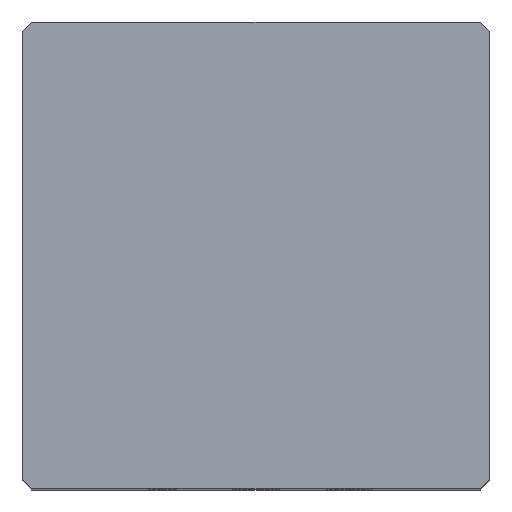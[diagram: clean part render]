
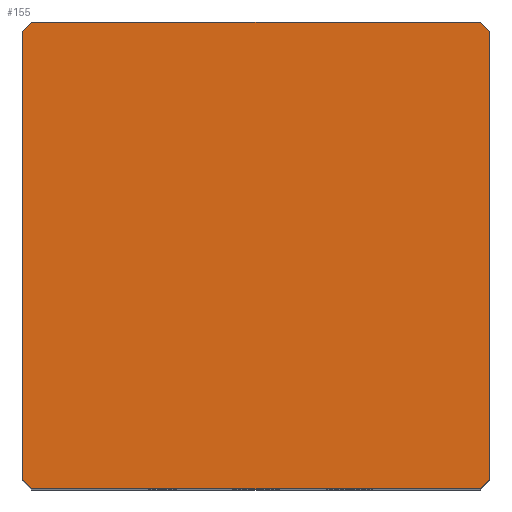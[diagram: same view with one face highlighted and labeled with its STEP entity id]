
A CAD part, top view. The second image highlights one B-rep face of the part: STEP entity #155.
In plain terms, the highlighted planar face has unit normal (0, 0, 1).
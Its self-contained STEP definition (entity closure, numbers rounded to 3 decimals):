
#39 = EDGE_CURVE('',#40,#42,#44,.T.);
#40 = VERTEX_POINT('',#41);
#41 = CARTESIAN_POINT('',(-10.,-9.6,30.75));
#42 = VERTEX_POINT('',#43);
#43 = CARTESIAN_POINT('',(-10.,9.6,30.75));
#44 = SURFACE_CURVE('',#45,(#49,#61),.PCURVE_S1.);
#45 = LINE('',#46,#47);
#46 = CARTESIAN_POINT('',(-10.,-10.,30.75));
#47 = VECTOR('',#48,1.);
#48 = DIRECTION('',(-0.,1.,0.));
#49 = PCURVE('',#50,#55);
#50 = PLANE('',#51);
#51 = AXIS2_PLACEMENT_3D('',#52,#53,#54);
#52 = CARTESIAN_POINT('',(-10.,-10.,0.));
#53 = DIRECTION('',(1.,0.,-0.));
#54 = DIRECTION('',(0.,0.,1.));
#55 = DEFINITIONAL_REPRESENTATION('',(#56),#60);
#56 = LINE('',#57,#58);
#57 = CARTESIAN_POINT('',(30.75,0.));
#58 = VECTOR('',#59,1.);
#59 = DIRECTION('',(0.,-1.));
#60 = ( GEOMETRIC_REPRESENTATION_CONTEXT(2) 
PARAMETRIC_REPRESENTATION_CONTEXT() REPRESENTATION_CONTEXT('2D SPACE',''
  ) );
#61 = PCURVE('',#62,#67);
#62 = PLANE('',#63);
#63 = AXIS2_PLACEMENT_3D('',#64,#65,#66);
#64 = CARTESIAN_POINT('',(-10.,-10.,30.75));
#65 = DIRECTION('',(0.,0.,1.));
#66 = DIRECTION('',(1.,0.,-0.));
#67 = DEFINITIONAL_REPRESENTATION('',(#68),#72);
#68 = LINE('',#69,#70);
#69 = CARTESIAN_POINT('',(0.,0.));
#70 = VECTOR('',#71,1.);
#71 = DIRECTION('',(0.,1.));
#72 = ( GEOMETRIC_REPRESENTATION_CONTEXT(2) 
PARAMETRIC_REPRESENTATION_CONTEXT() REPRESENTATION_CONTEXT('2D SPACE',''
  ) );
#90 = PLANE('',#91);
#91 = AXIS2_PLACEMENT_3D('',#92,#93,#94);
#92 = CARTESIAN_POINT('',(-9.8,-9.8,0.));
#93 = DIRECTION('',(-0.707,-0.707,0.));
#94 = DIRECTION('',(-0.,-0.,-1.));
#144 = PLANE('',#145);
#145 = AXIS2_PLACEMENT_3D('',#146,#147,#148);
#146 = CARTESIAN_POINT('',(-9.8,9.8,0.));
#147 = DIRECTION('',(0.707,-0.707,0.));
#148 = DIRECTION('',(-0.,-0.,-1.));
#155 = ADVANCED_FACE('',(#156),#62,.T.);
#156 = FACE_BOUND('',#157,.T.);
#157 = EDGE_LOOP('',(#158,#159,#182,#210,#238,#266,#294,#322));
#158 = ORIENTED_EDGE('',*,*,#39,.F.);
#159 = ORIENTED_EDGE('',*,*,#160,.T.);
#160 = EDGE_CURVE('',#40,#161,#163,.T.);
#161 = VERTEX_POINT('',#162);
#162 = CARTESIAN_POINT('',(-9.6,-10.,30.75));
#163 = SURFACE_CURVE('',#164,(#168,#175),.PCURVE_S1.);
#164 = LINE('',#165,#166);
#165 = CARTESIAN_POINT('',(-9.8,-9.8,30.75));
#166 = VECTOR('',#167,1.);
#167 = DIRECTION('',(0.707,-0.707,0.));
#168 = PCURVE('',#62,#169);
#169 = DEFINITIONAL_REPRESENTATION('',(#170),#174);
#170 = LINE('',#171,#172);
#171 = CARTESIAN_POINT('',(0.2,0.2));
#172 = VECTOR('',#173,1.);
#173 = DIRECTION('',(0.707,-0.707));
#174 = ( GEOMETRIC_REPRESENTATION_CONTEXT(2) 
PARAMETRIC_REPRESENTATION_CONTEXT() REPRESENTATION_CONTEXT('2D SPACE',''
  ) );
#175 = PCURVE('',#90,#176);
#176 = DEFINITIONAL_REPRESENTATION('',(#177),#181);
#177 = LINE('',#178,#179);
#178 = CARTESIAN_POINT('',(-30.75,0.));
#179 = VECTOR('',#180,1.);
#180 = DIRECTION('',(-0.,1.));
#181 = ( GEOMETRIC_REPRESENTATION_CONTEXT(2) 
PARAMETRIC_REPRESENTATION_CONTEXT() REPRESENTATION_CONTEXT('2D SPACE',''
  ) );
#182 = ORIENTED_EDGE('',*,*,#183,.T.);
#183 = EDGE_CURVE('',#161,#184,#186,.T.);
#184 = VERTEX_POINT('',#185);
#185 = CARTESIAN_POINT('',(9.6,-10.,30.75));
#186 = SURFACE_CURVE('',#187,(#191,#198),.PCURVE_S1.);
#187 = LINE('',#188,#189);
#188 = CARTESIAN_POINT('',(-10.,-10.,30.75));
#189 = VECTOR('',#190,1.);
#190 = DIRECTION('',(1.,0.,-0.));
#191 = PCURVE('',#62,#192);
#192 = DEFINITIONAL_REPRESENTATION('',(#193),#197);
#193 = LINE('',#194,#195);
#194 = CARTESIAN_POINT('',(0.,0.));
#195 = VECTOR('',#196,1.);
#196 = DIRECTION('',(1.,0.));
#197 = ( GEOMETRIC_REPRESENTATION_CONTEXT(2) 
PARAMETRIC_REPRESENTATION_CONTEXT() REPRESENTATION_CONTEXT('2D SPACE',''
  ) );
#198 = PCURVE('',#199,#204);
#199 = PLANE('',#200);
#200 = AXIS2_PLACEMENT_3D('',#201,#202,#203);
#201 = CARTESIAN_POINT('',(-10.,-10.,0.));
#202 = DIRECTION('',(-0.,1.,0.));
#203 = DIRECTION('',(0.,0.,1.));
#204 = DEFINITIONAL_REPRESENTATION('',(#205),#209);
#205 = LINE('',#206,#207);
#206 = CARTESIAN_POINT('',(30.75,0.));
#207 = VECTOR('',#208,1.);
#208 = DIRECTION('',(0.,1.));
#209 = ( GEOMETRIC_REPRESENTATION_CONTEXT(2) 
PARAMETRIC_REPRESENTATION_CONTEXT() REPRESENTATION_CONTEXT('2D SPACE',''
  ) );
#210 = ORIENTED_EDGE('',*,*,#211,.F.);
#211 = EDGE_CURVE('',#212,#184,#214,.T.);
#212 = VERTEX_POINT('',#213);
#213 = CARTESIAN_POINT('',(10.,-9.6,30.75));
#214 = SURFACE_CURVE('',#215,(#219,#226),.PCURVE_S1.);
#215 = LINE('',#216,#217);
#216 = CARTESIAN_POINT('',(4.8,-14.8,30.75));
#217 = VECTOR('',#218,1.);
#218 = DIRECTION('',(-0.707,-0.707,0.));
#219 = PCURVE('',#62,#220);
#220 = DEFINITIONAL_REPRESENTATION('',(#221),#225);
#221 = LINE('',#222,#223);
#222 = CARTESIAN_POINT('',(14.8,-4.8));
#223 = VECTOR('',#224,1.);
#224 = DIRECTION('',(-0.707,-0.707));
#225 = ( GEOMETRIC_REPRESENTATION_CONTEXT(2) 
PARAMETRIC_REPRESENTATION_CONTEXT() REPRESENTATION_CONTEXT('2D SPACE',''
  ) );
#226 = PCURVE('',#227,#232);
#227 = PLANE('',#228);
#228 = AXIS2_PLACEMENT_3D('',#229,#230,#231);
#229 = CARTESIAN_POINT('',(9.8,-9.8,0.));
#230 = DIRECTION('',(-0.707,0.707,0.));
#231 = DIRECTION('',(-0.,-0.,-1.));
#232 = DEFINITIONAL_REPRESENTATION('',(#233),#237);
#233 = LINE('',#234,#235);
#234 = CARTESIAN_POINT('',(-30.75,7.071));
#235 = VECTOR('',#236,1.);
#236 = DIRECTION('',(-0.,1.));
#237 = ( GEOMETRIC_REPRESENTATION_CONTEXT(2) 
PARAMETRIC_REPRESENTATION_CONTEXT() REPRESENTATION_CONTEXT('2D SPACE',''
  ) );
#238 = ORIENTED_EDGE('',*,*,#239,.T.);
#239 = EDGE_CURVE('',#212,#240,#242,.T.);
#240 = VERTEX_POINT('',#241);
#241 = CARTESIAN_POINT('',(10.,9.6,30.75));
#242 = SURFACE_CURVE('',#243,(#247,#254),.PCURVE_S1.);
#243 = LINE('',#244,#245);
#244 = CARTESIAN_POINT('',(10.,-10.,30.75));
#245 = VECTOR('',#246,1.);
#246 = DIRECTION('',(-0.,1.,0.));
#247 = PCURVE('',#62,#248);
#248 = DEFINITIONAL_REPRESENTATION('',(#249),#253);
#249 = LINE('',#250,#251);
#250 = CARTESIAN_POINT('',(20.,0.));
#251 = VECTOR('',#252,1.);
#252 = DIRECTION('',(0.,1.));
#253 = ( GEOMETRIC_REPRESENTATION_CONTEXT(2) 
PARAMETRIC_REPRESENTATION_CONTEXT() REPRESENTATION_CONTEXT('2D SPACE',''
  ) );
#254 = PCURVE('',#255,#260);
#255 = PLANE('',#256);
#256 = AXIS2_PLACEMENT_3D('',#257,#258,#259);
#257 = CARTESIAN_POINT('',(10.,-10.,0.));
#258 = DIRECTION('',(1.,0.,-0.));
#259 = DIRECTION('',(0.,0.,1.));
#260 = DEFINITIONAL_REPRESENTATION('',(#261),#265);
#261 = LINE('',#262,#263);
#262 = CARTESIAN_POINT('',(30.75,0.));
#263 = VECTOR('',#264,1.);
#264 = DIRECTION('',(0.,-1.));
#265 = ( GEOMETRIC_REPRESENTATION_CONTEXT(2) 
PARAMETRIC_REPRESENTATION_CONTEXT() REPRESENTATION_CONTEXT('2D SPACE',''
  ) );
#266 = ORIENTED_EDGE('',*,*,#267,.T.);
#267 = EDGE_CURVE('',#240,#268,#270,.T.);
#268 = VERTEX_POINT('',#269);
#269 = CARTESIAN_POINT('',(9.6,10.,30.75));
#270 = SURFACE_CURVE('',#271,(#275,#282),.PCURVE_S1.);
#271 = LINE('',#272,#273);
#272 = CARTESIAN_POINT('',(9.8,9.8,30.75));
#273 = VECTOR('',#274,1.);
#274 = DIRECTION('',(-0.707,0.707,0.));
#275 = PCURVE('',#62,#276);
#276 = DEFINITIONAL_REPRESENTATION('',(#277),#281);
#277 = LINE('',#278,#279);
#278 = CARTESIAN_POINT('',(19.8,19.8));
#279 = VECTOR('',#280,1.);
#280 = DIRECTION('',(-0.707,0.707));
#281 = ( GEOMETRIC_REPRESENTATION_CONTEXT(2) 
PARAMETRIC_REPRESENTATION_CONTEXT() REPRESENTATION_CONTEXT('2D SPACE',''
  ) );
#282 = PCURVE('',#283,#288);
#283 = PLANE('',#284);
#284 = AXIS2_PLACEMENT_3D('',#285,#286,#287);
#285 = CARTESIAN_POINT('',(9.8,9.8,0.));
#286 = DIRECTION('',(0.707,0.707,0.));
#287 = DIRECTION('',(-0.,0.,-1.));
#288 = DEFINITIONAL_REPRESENTATION('',(#289),#293);
#289 = LINE('',#290,#291);
#290 = CARTESIAN_POINT('',(-30.75,0.));
#291 = VECTOR('',#292,1.);
#292 = DIRECTION('',(-0.,1.));
#293 = ( GEOMETRIC_REPRESENTATION_CONTEXT(2) 
PARAMETRIC_REPRESENTATION_CONTEXT() REPRESENTATION_CONTEXT('2D SPACE',''
  ) );
#294 = ORIENTED_EDGE('',*,*,#295,.F.);
#295 = EDGE_CURVE('',#296,#268,#298,.T.);
#296 = VERTEX_POINT('',#297);
#297 = CARTESIAN_POINT('',(-9.6,10.,30.75));
#298 = SURFACE_CURVE('',#299,(#303,#310),.PCURVE_S1.);
#299 = LINE('',#300,#301);
#300 = CARTESIAN_POINT('',(-10.,10.,30.75));
#301 = VECTOR('',#302,1.);
#302 = DIRECTION('',(1.,0.,-0.));
#303 = PCURVE('',#62,#304);
#304 = DEFINITIONAL_REPRESENTATION('',(#305),#309);
#305 = LINE('',#306,#307);
#306 = CARTESIAN_POINT('',(0.,20.));
#307 = VECTOR('',#308,1.);
#308 = DIRECTION('',(1.,0.));
#309 = ( GEOMETRIC_REPRESENTATION_CONTEXT(2) 
PARAMETRIC_REPRESENTATION_CONTEXT() REPRESENTATION_CONTEXT('2D SPACE',''
  ) );
#310 = PCURVE('',#311,#316);
#311 = PLANE('',#312);
#312 = AXIS2_PLACEMENT_3D('',#313,#314,#315);
#313 = CARTESIAN_POINT('',(-10.,10.,0.));
#314 = DIRECTION('',(-0.,1.,0.));
#315 = DIRECTION('',(0.,0.,1.));
#316 = DEFINITIONAL_REPRESENTATION('',(#317),#321);
#317 = LINE('',#318,#319);
#318 = CARTESIAN_POINT('',(30.75,0.));
#319 = VECTOR('',#320,1.);
#320 = DIRECTION('',(0.,1.));
#321 = ( GEOMETRIC_REPRESENTATION_CONTEXT(2) 
PARAMETRIC_REPRESENTATION_CONTEXT() REPRESENTATION_CONTEXT('2D SPACE',''
  ) );
#322 = ORIENTED_EDGE('',*,*,#323,.F.);
#323 = EDGE_CURVE('',#42,#296,#324,.T.);
#324 = SURFACE_CURVE('',#325,(#329,#336),.PCURVE_S1.);
#325 = LINE('',#326,#327);
#326 = CARTESIAN_POINT('',(-14.8,4.8,30.75));
#327 = VECTOR('',#328,1.);
#328 = DIRECTION('',(0.707,0.707,-0.));
#329 = PCURVE('',#62,#330);
#330 = DEFINITIONAL_REPRESENTATION('',(#331),#335);
#331 = LINE('',#332,#333);
#332 = CARTESIAN_POINT('',(-4.8,14.8));
#333 = VECTOR('',#334,1.);
#334 = DIRECTION('',(0.707,0.707));
#335 = ( GEOMETRIC_REPRESENTATION_CONTEXT(2) 
PARAMETRIC_REPRESENTATION_CONTEXT() REPRESENTATION_CONTEXT('2D SPACE',''
  ) );
#336 = PCURVE('',#144,#337);
#337 = DEFINITIONAL_REPRESENTATION('',(#338),#342);
#338 = LINE('',#339,#340);
#339 = CARTESIAN_POINT('',(-30.75,-7.071));
#340 = VECTOR('',#341,1.);
#341 = DIRECTION('',(-0.,1.));
#342 = ( GEOMETRIC_REPRESENTATION_CONTEXT(2) 
PARAMETRIC_REPRESENTATION_CONTEXT() REPRESENTATION_CONTEXT('2D SPACE',''
  ) );
